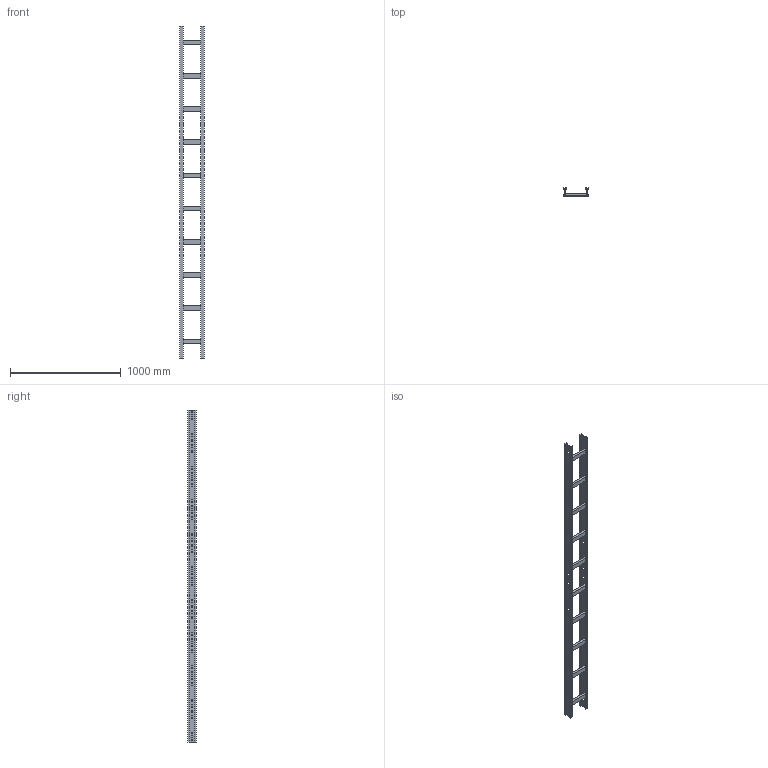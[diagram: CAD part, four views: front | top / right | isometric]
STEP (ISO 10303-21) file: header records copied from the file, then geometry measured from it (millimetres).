
FILE_DESCRIPTION (( 'STEP AP214' ), '1' );
FILE_NAME ('01S3C200.step', '2025-02-21T16:20:51', ( '' ), ( '' ), 'SwSTEP 2.0', 'SolidWorks 2023', '' );
FILE_SCHEMA (( 'AUTOMOTIVE_DESIGN' ));
Length unit declared in the file: millimetre
Products named in the file (3): 01S3C200; LONGH.H75; TRAVERSINO_200
Assembly tree (12 placements, depth 2):
  01S3C200
    LONGH.H75  x2
    TRAVERSINO_200  x10
Bounding box: 218 x 75 x 3000 mm (x, y, z)
Volume: 4525200 mm3; surface area: 1710701 mm2
Topology: 12 solids, 12 shells, 408 faces, 1152 edges, 768 vertices
Faces by surface type: plane 408
Entity records: 6180 total; most frequent: CARTESIAN_POINT 1075, ORIENTED_EDGE 1056, DIRECTION 918, LINE 528, EDGE_CURVE 528, VECTOR 528, VERTEX_POINT 352, EDGE_LOOP 260
